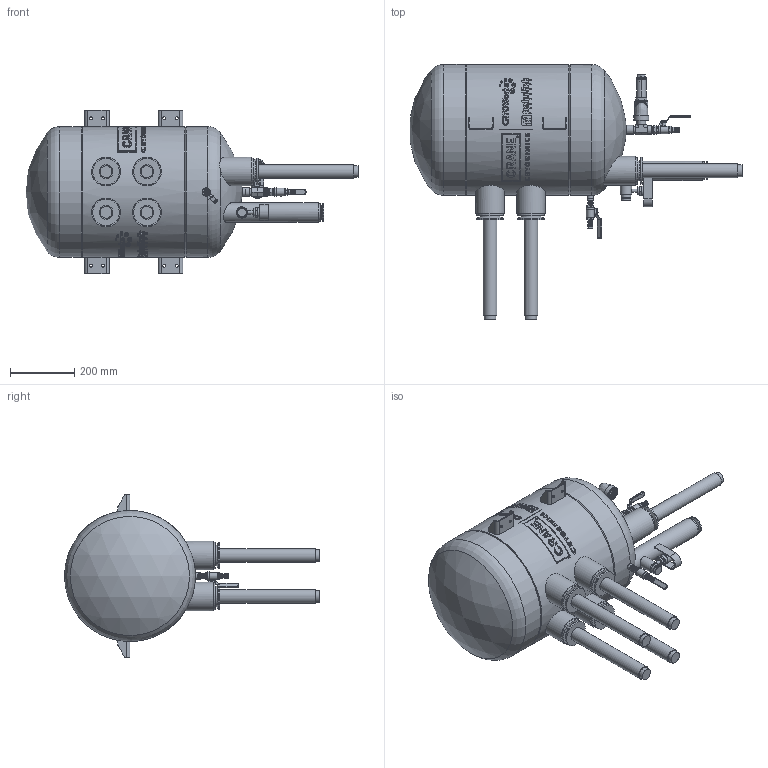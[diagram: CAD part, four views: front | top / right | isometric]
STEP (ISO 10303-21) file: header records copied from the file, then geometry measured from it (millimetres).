
FILE_DESCRIPTION (( 'STEP AP203' ), '1' );
FILE_NAME ('CA01730.step', '2025-12-17T20:02:38', ( '' ), ( '' ), 'SwSTEP 2.0', 'SolidWorks 2023', '' );
FILE_SCHEMA (( 'CONFIG_CONTROL_DESIGN' ));
Length unit declared in the file: inch
Products named in the file (1): CA01730
Bounding box: 1031.51 x 792.16 x 508 mm (x, y, z)
Volume: 82850397.6 mm3; surface area: 1573596.9 mm2
Topology: 1 solids, 13 shells, 2451 faces, 6185 edges, 3985 vertices
Faces by surface type: plane 1137, cylinder 626, cone 442, bspline 202, torus 30, sphere 14
Full cylindrical faces by diameter (mm): 2.091 x2, 2.291 x2, 2.489 x2, 2.855 x2, 3.223 x2, 4.154 x2, 4.299 x2, 4.75 x2, 4.772 x2, 4.775 x1, 5.085 x2, 5.33 x2, 5.527 x14, 5.613 x2, 6.221 x14, 6.272 x4, 6.35 x7, 6.402 x2, 7.112 x1, 7.722 x2, 7.976 x2, 8.647 x2, 9.188 x2, 9.246 x3, 9.322 x2, 9.525 x8, 9.842 x2, 10.262 x1, 10.683 x2, 11.1 x1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
Entity records: 169751 total; most frequent: CARTESIAN_POINT 120307, ORIENTED_EDGE 11226, DIRECTION 8205, EDGE_CURVE 5613, VERTEX_POINT 3808, AXIS2_PLACEMENT_3D 3275, EDGE_LOOP 3143, FACE_OUTER_BOUND 2647
